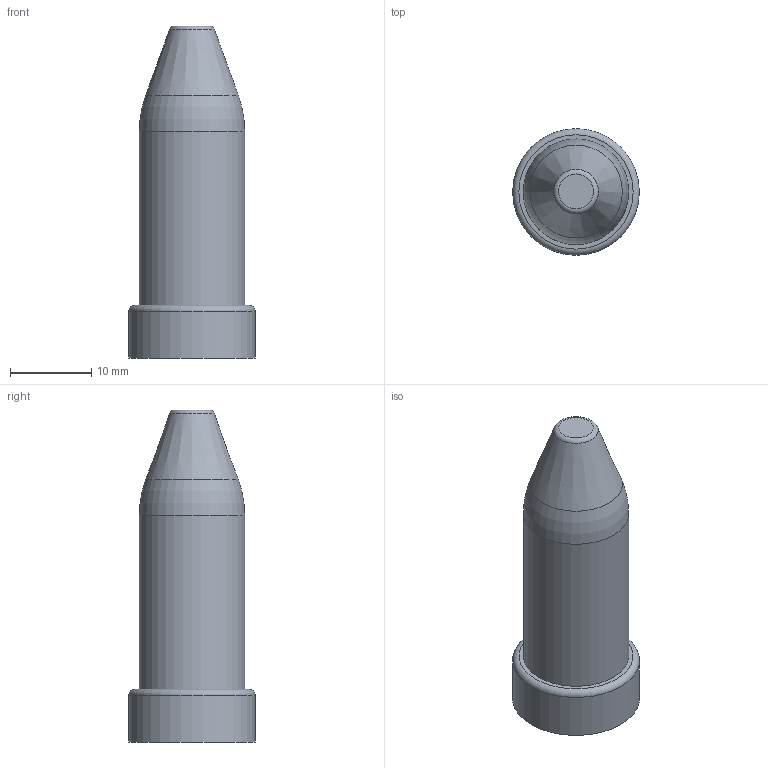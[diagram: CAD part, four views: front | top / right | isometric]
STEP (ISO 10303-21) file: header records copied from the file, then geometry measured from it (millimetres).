
FILE_DESCRIPTION (( 'STEP AP214' ), '1' );
FILE_NAME ('P-13mm-2.5mm-1.000.STEP', '2023-11-07T11:17:20', ( '' ), ( '' ), 'SwSTEP 2.0', 'SolidWorks 2020', '' );
FILE_SCHEMA (( 'AUTOMOTIVE_DESIGN' ));
Length unit declared in the file: inch
Products named in the file (1): P-13mm-2.5mm-1.000
Bounding box: 15.62 x 15.62 x 40.94 mm (x, y, z)
Volume: 5115.8 mm3; surface area: 1863.8 mm2
Topology: 1 solids, 1 shells, 9 faces, 14 edges, 8 vertices
Faces by surface type: plane 3, torus 3, cylinder 2, cone 1
Full cylindrical faces by diameter (mm): 13 x1, 15.621 x1
Entity records: 214 total; most frequent: DIRECTION 36, CARTESIAN_POINT 26, AXIS2_PLACEMENT_3D 18, ORIENTED_EDGE 16, EDGE_LOOP 16, FACE_OUTER_BOUND 14, ADVANCED_FACE 9, VERTEX_POINT 8
